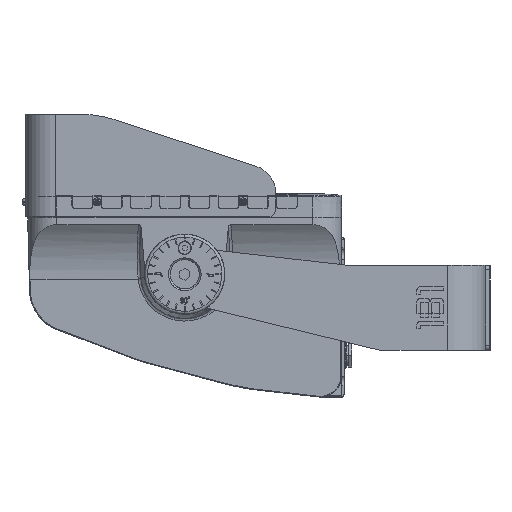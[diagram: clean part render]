
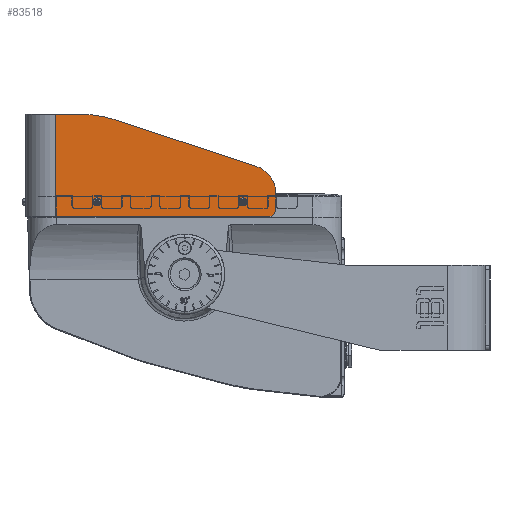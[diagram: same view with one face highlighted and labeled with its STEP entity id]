
A CAD part, left-side view. The second image highlights one B-rep face of the part: STEP entity #83518.
In plain terms, the highlighted planar face has unit normal (-1, 0, 0).
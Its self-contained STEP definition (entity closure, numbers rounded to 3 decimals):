
#1151 = EDGE_LOOP ( 'NONE', ( #155853, #98906, #74052, #144986 ) ) ;
#1292 = ORIENTED_EDGE ( 'NONE', *, *, #7254, .F. ) ;
#2042 = DIRECTION ( 'NONE',  ( 0., -0.895, 0.446 ) ) ;
#3004 = DIRECTION ( 'NONE',  ( 0., 0.446, 0.895 ) ) ;
#3170 = EDGE_CURVE ( 'NONE', #163565, #23390, #141065, .T. ) ;
#3296 = VERTEX_POINT ( 'NONE', #120410 ) ;
#7254 = EDGE_CURVE ( 'NONE', #130032, #171517, #93433, .T. ) ;
#7805 = DIRECTION ( 'NONE',  ( 0., 0.895, -0.446 ) ) ;
#8385 = LINE ( 'NONE', #75643, #87080 ) ;
#8636 = VERTEX_POINT ( 'NONE', #130363 ) ;
#12880 = VECTOR ( 'NONE', #99605, 1000. ) ;
#15098 = EDGE_CURVE ( 'NONE', #157602, #130032, #90120, .T. ) ;
#17196 = DIRECTION ( 'NONE',  ( 0., -0.446, -0.895 ) ) ;
#19978 = LINE ( 'NONE', #73987, #21098 ) ;
#20214 = EDGE_CURVE ( 'NONE', #50952, #55790, #86459, .T. ) ;
#21098 = VECTOR ( 'NONE', #127878, 1000. ) ;
#23390 = VERTEX_POINT ( 'NONE', #95570 ) ;
#23924 = EDGE_CURVE ( 'NONE', #171517, #43236, #25712, .T. ) ;
#24148 = VERTEX_POINT ( 'NONE', #45091 ) ;
#25327 = ORIENTED_EDGE ( 'NONE', *, *, #81026, .F. ) ;
#25712 = LINE ( 'NONE', #38135, #100964 ) ;
#26775 = ORIENTED_EDGE ( 'NONE', *, *, #91624, .T. ) ;
#28854 = ORIENTED_EDGE ( 'NONE', *, *, #20214, .F. ) ;
#30168 = EDGE_CURVE ( 'NONE', #24148, #55790, #8385, .T. ) ;
#30237 = ORIENTED_EDGE ( 'NONE', *, *, #15098, .F. ) ;
#31881 = DIRECTION ( 'NONE',  ( -1., 0., 0. ) ) ;
#33098 = DIRECTION ( 'NONE',  ( -1., 0., 0. ) ) ;
#35468 = CIRCLE ( 'NONE', #94882, 80. ) ;
#36676 = DIRECTION ( 'NONE',  ( 0., 0.446, 0.895 ) ) ;
#37643 = DIRECTION ( 'NONE',  ( 0., -0.895, 0.446 ) ) ;
#37723 = VECTOR ( 'NONE', #111512, 1000. ) ;
#38135 = CARTESIAN_POINT ( 'NONE',  ( -309., 191.731, 55.326 ) ) ;
#41540 = DIRECTION ( 'NONE',  ( 0., 0.144, 0.99 ) ) ;
#42844 = DIRECTION ( 'NONE',  ( -1., 0., 0. ) ) ;
#42869 = DIRECTION ( 'NONE',  ( 1., 0., 0. ) ) ;
#43236 = VERTEX_POINT ( 'NONE', #140723 ) ;
#43313 = VECTOR ( 'NONE', #54168, 1000. ) ;
#43798 = DIRECTION ( 'NONE',  ( -1., 0., 0. ) ) ;
#44094 = DIRECTION ( 'NONE',  ( -1., 0., 0. ) ) ;
#44530 = CARTESIAN_POINT ( 'NONE',  ( -309., 191.731, 55.326 ) ) ;
#44877 = AXIS2_PLACEMENT_3D ( 'NONE', #96894, #33098, #17196 ) ;
#45091 = CARTESIAN_POINT ( 'NONE',  ( -309., 169.474, 62.794 ) ) ;
#45831 = PLANE ( 'NONE',  #53216 ) ;
#50952 = VERTEX_POINT ( 'NONE', #129366 ) ;
#51114 = EDGE_CURVE ( 'NONE', #135023, #124746, #121383, .T. ) ;
#51296 = VERTEX_POINT ( 'NONE', #163257 ) ;
#51826 = CIRCLE ( 'NONE', #99937, 1.75 ) ;
#53216 = AXIS2_PLACEMENT_3D ( 'NONE', #136924, #44094, #166047 ) ;
#54168 = DIRECTION ( 'NONE',  ( 0., -0.446, -0.895 ) ) ;
#55790 = VERTEX_POINT ( 'NONE', #79168 ) ;
#57577 = DIRECTION ( 'NONE',  ( 0., -0.446, -0.895 ) ) ;
#57630 = CARTESIAN_POINT ( 'NONE',  ( -309., 193.293, 58.458 ) ) ;
#58314 = EDGE_CURVE ( 'NONE', #23390, #51296, #126452, .T. ) ;
#69182 = DIRECTION ( 'NONE',  ( 1., 0., 0. ) ) ;
#69500 = CARTESIAN_POINT ( 'NONE',  ( -309., 192.512, 56.892 ) ) ;
#70085 = CARTESIAN_POINT ( 'NONE',  ( -309., 191.951, 59.127 ) ) ;
#72402 = FACE_BOUND ( 'NONE', #1151, .T. ) ;
#73493 = ORIENTED_EDGE ( 'NONE', *, *, #125866, .F. ) ;
#73987 = CARTESIAN_POINT ( 'NONE',  ( -309., 294.516, 68.586 ) ) ;
#74052 = ORIENTED_EDGE ( 'NONE', *, *, #58314, .F. ) ;
#75643 = CARTESIAN_POINT ( 'NONE',  ( -309., 169.474, 62.794 ) ) ;
#75965 = CIRCLE ( 'NONE', #44877, 1.75 ) ;
#76068 = ORIENTED_EDGE ( 'NONE', *, *, #153854, .F. ) ;
#78458 = CARTESIAN_POINT ( 'NONE',  ( -309., 333.612, 53.572 ) ) ;
#79168 = CARTESIAN_POINT ( 'NONE',  ( -309., 174.173, 72.215 ) ) ;
#80120 = CARTESIAN_POINT ( 'NONE',  ( -309., 281.44, 14.499 ) ) ;
#81026 = EDGE_CURVE ( 'NONE', #43236, #157602, #75965, .T. ) ;
#81105 = ORIENTED_EDGE ( 'NONE', *, *, #89743, .F. ) ;
#81470 = DIRECTION ( 'NONE',  ( 0., -0.895, 0.446 ) ) ;
#82043 = AXIS2_PLACEMENT_3D ( 'NONE', #163971, #42869, #121613 ) ;
#83518 = ADVANCED_FACE ( 'NONE', ( #84827, #72402, #111350 ), #45831, .T. ) ;
#84827 = FACE_BOUND ( 'NONE', #106165, .T. ) ;
#85088 = DIRECTION ( 'NONE',  ( 0., 0.446, 0.895 ) ) ;
#86459 = CIRCLE ( 'NONE', #171176, 20. ) ;
#87080 = VECTOR ( 'NONE', #36676, 1000. ) ;
#88886 = CARTESIAN_POINT ( 'NONE',  ( -309., 282.782, 13.829 ) ) ;
#89743 = EDGE_CURVE ( 'NONE', #24148, #3296, #121508, .T. ) ;
#90120 = LINE ( 'NONE', #158101, #134074 ) ;
#91624 = EDGE_CURVE ( 'NONE', #124746, #3296, #109146, .T. ) ;
#91650 = LINE ( 'NONE', #106659, #140715 ) ;
#93433 = CIRCLE ( 'NONE', #138521, 1.75 ) ;
#94882 = AXIS2_PLACEMENT_3D ( 'NONE', #146981, #69182, #85088 ) ;
#95570 = CARTESIAN_POINT ( 'NONE',  ( -309., 281.22, 10.697 ) ) ;
#96072 = ORIENTED_EDGE ( 'NONE', *, *, #111010, .F. ) ;
#96894 = CARTESIAN_POINT ( 'NONE',  ( -309., 191.17, 57.561 ) ) ;
#97779 = DIRECTION ( 'NONE',  ( 0., 0.446, 0.895 ) ) ;
#98507 = EDGE_CURVE ( 'NONE', #51296, #139999, #51826, .T. ) ;
#98906 = ORIENTED_EDGE ( 'NONE', *, *, #98507, .F. ) ;
#99196 = VECTOR ( 'NONE', #2042, 1000. ) ;
#99605 = DIRECTION ( 'NONE',  ( 0., 0.895, -0.446 ) ) ;
#99937 = AXIS2_PLACEMENT_3D ( 'NONE', #110700, #31881, #57577 ) ;
#100964 = VECTOR ( 'NONE', #81470, 1000. ) ;
#103682 = ORIENTED_EDGE ( 'NONE', *, *, #51114, .T. ) ;
#106165 = EDGE_LOOP ( 'NONE', ( #30237, #25327, #129392, #1292 ) ) ;
#106659 = CARTESIAN_POINT ( 'NONE',  ( -309., 333.612, 53.572 ) ) ;
#107780 = VERTEX_POINT ( 'NONE', #119459 ) ;
#109146 = LINE ( 'NONE', #163860, #99196 ) ;
#110700 = CARTESIAN_POINT ( 'NONE',  ( -309., 280.659, 12.933 ) ) ;
#111010 = EDGE_CURVE ( 'NONE', #8636, #107780, #35468, .T. ) ;
#111350 = FACE_OUTER_BOUND ( 'NONE', #169892, .T. ) ;
#111390 = DIRECTION ( 'NONE',  ( 1., 0., 0. ) ) ;
#111512 = DIRECTION ( 'NONE',  ( 0., -0.895, 0.446 ) ) ;
#111826 = CARTESIAN_POINT ( 'NONE',  ( -309., 282.001, 12.263 ) ) ;
#119459 = CARTESIAN_POINT ( 'NONE',  ( -309., 294.516, 68.586 ) ) ;
#120410 = CARTESIAN_POINT ( 'NONE',  ( -309., 171.718, 56.088 ) ) ;
#121383 = LINE ( 'NONE', #160255, #43313 ) ;
#121508 = CIRCLE ( 'NONE', #82043, 5. ) ;
#121613 = DIRECTION ( 'NONE',  ( 0., -0.895, 0.446 ) ) ;
#124746 = VERTEX_POINT ( 'NONE', #168697 ) ;
#125866 = EDGE_CURVE ( 'NONE', #135023, #8636, #91650, .T. ) ;
#126452 = LINE ( 'NONE', #155601, #37723 ) ;
#126943 = CARTESIAN_POINT ( 'NONE',  ( -309., 281.44, 14.499 ) ) ;
#127878 = DIRECTION ( 'NONE',  ( 0., -0.99, 0.144 ) ) ;
#129366 = CARTESIAN_POINT ( 'NONE',  ( -309., 194.952, 83.081 ) ) ;
#129392 = ORIENTED_EDGE ( 'NONE', *, *, #23924, .F. ) ;
#130032 = VERTEX_POINT ( 'NONE', #57630 ) ;
#130363 = CARTESIAN_POINT ( 'NONE',  ( -309., 318.694, 61.012 ) ) ;
#134074 = VECTOR ( 'NONE', #7805, 1000. ) ;
#135023 = VERTEX_POINT ( 'NONE', #78458 ) ;
#136924 = CARTESIAN_POINT ( 'NONE',  ( -309., 319.374, -17.549 ) ) ;
#138521 = AXIS2_PLACEMENT_3D ( 'NONE', #69500, #43798, #97779 ) ;
#139999 = VERTEX_POINT ( 'NONE', #80120 ) ;
#140715 = VECTOR ( 'NONE', #37643, 1000. ) ;
#140723 = CARTESIAN_POINT ( 'NONE',  ( -309., 190.389, 55.995 ) ) ;
#141065 = CIRCLE ( 'NONE', #157991, 1.75 ) ;
#144986 = ORIENTED_EDGE ( 'NONE', *, *, #3170, .F. ) ;
#146981 = CARTESIAN_POINT ( 'NONE',  ( -309., 282.991, -10.579 ) ) ;
#150264 = CARTESIAN_POINT ( 'NONE',  ( -309., 192.071, 63.29 ) ) ;
#152613 = LINE ( 'NONE', #126943, #12880 ) ;
#153854 = EDGE_CURVE ( 'NONE', #107780, #50952, #19978, .T. ) ;
#155601 = CARTESIAN_POINT ( 'NONE',  ( -309., 281.22, 10.697 ) ) ;
#155853 = ORIENTED_EDGE ( 'NONE', *, *, #160935, .F. ) ;
#157602 = VERTEX_POINT ( 'NONE', #70085 ) ;
#157991 = AXIS2_PLACEMENT_3D ( 'NONE', #111826, #42844, #3004 ) ;
#158101 = CARTESIAN_POINT ( 'NONE',  ( -309., 191.951, 59.127 ) ) ;
#160255 = CARTESIAN_POINT ( 'NONE',  ( -309., 333.612, 53.572 ) ) ;
#160935 = EDGE_CURVE ( 'NONE', #139999, #163565, #152613, .T. ) ;
#163257 = CARTESIAN_POINT ( 'NONE',  ( -309., 279.878, 11.367 ) ) ;
#163565 = VERTEX_POINT ( 'NONE', #88886 ) ;
#163860 = CARTESIAN_POINT ( 'NONE',  ( -309., 302.372, -9.07 ) ) ;
#163971 = CARTESIAN_POINT ( 'NONE',  ( -309., 173.949, 60.562 ) ) ;
#166047 = DIRECTION ( 'NONE',  ( 0., 0.446, 0.895 ) ) ;
#168697 = CARTESIAN_POINT ( 'NONE',  ( -309., 302.372, -9.07 ) ) ;
#169251 = ORIENTED_EDGE ( 'NONE', *, *, #30168, .T. ) ;
#169892 = EDGE_LOOP ( 'NONE', ( #169251, #28854, #76068, #96072, #73493, #103682, #26775, #81105 ) ) ;
#171176 = AXIS2_PLACEMENT_3D ( 'NONE', #150264, #111390, #41540 ) ;
#171517 = VERTEX_POINT ( 'NONE', #44530 ) ;
